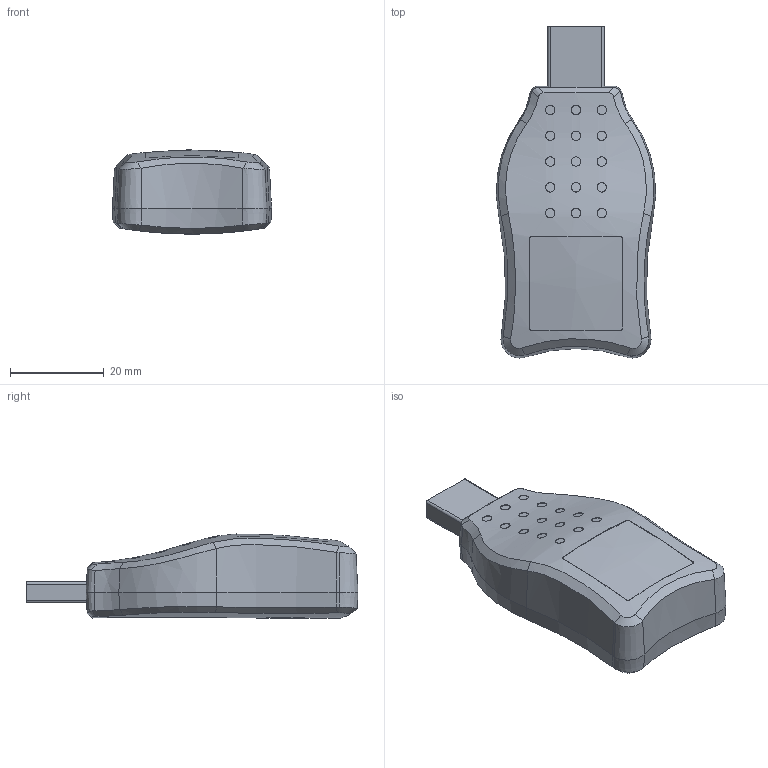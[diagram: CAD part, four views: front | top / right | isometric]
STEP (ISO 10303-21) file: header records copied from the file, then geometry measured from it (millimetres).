
FILE_DESCRIPTION (( 'STEP AP214' ), '1' );
FILE_NAME ('USB-DXC120.STEP', '2024-06-24T15:25:44', ( '' ), ( '' ), 'SwSTEP 2.0', 'SolidWorks 2021', '' );
FILE_SCHEMA (( 'AUTOMOTIVE_DESIGN' ));
Length unit declared in the file: millimetre
Products named in the file (1): USB-DXC120
Bounding box: 33.96 x 70.8 x 17.95 mm (x, y, z)
Volume: 25216.7 mm3; surface area: 6766.2 mm2
Topology: 3 solids, 3 shells, 185 faces, 432 edges, 278 vertices
Faces by surface type: cylinder 76, bspline 45, plane 42, cone 22
Entity records: 9635 total; most frequent: CARTESIAN_POINT 5928, ORIENTED_EDGE 864, DIRECTION 527, EDGE_CURVE 432, VERTEX_POINT 278, B_SPLINE_CURVE_WITH_KNOTS 212, EDGE_LOOP 212, FACE_OUTER_BOUND 185
